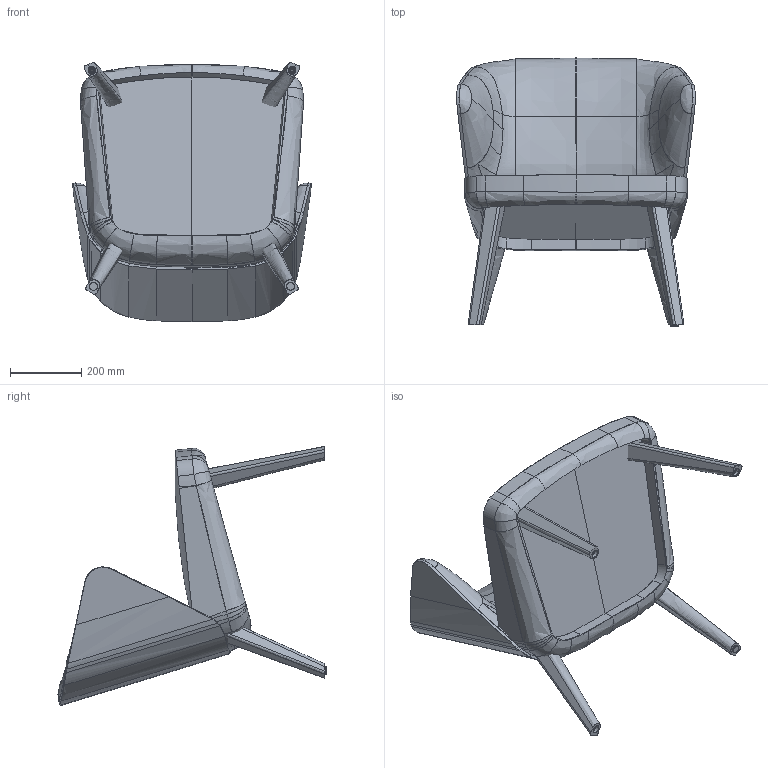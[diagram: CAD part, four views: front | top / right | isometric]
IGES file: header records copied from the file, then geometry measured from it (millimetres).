
Start section: SolidWorks IGES file using analytic representation for surfaces
Global section: file name: G:\Product Info\Back Me Up Salon & Lounge\3d\igs\BMU Salon houten poten.IGS; native system: SolidWorks 2016; preprocessor: SolidWorks 2016; author: remko; date: 161213.181948; units: millimetre
Bounding box: 668.48 x 751.09 x 726.62 mm (x, y, z)
Surface area: 2052314.8 mm2 (no closed solid volume)
Topology: 0 solids, 0 shells, 223 faces, 3443 edges, 3443 vertices
Faces by surface type: bspline 161, revolution 62
